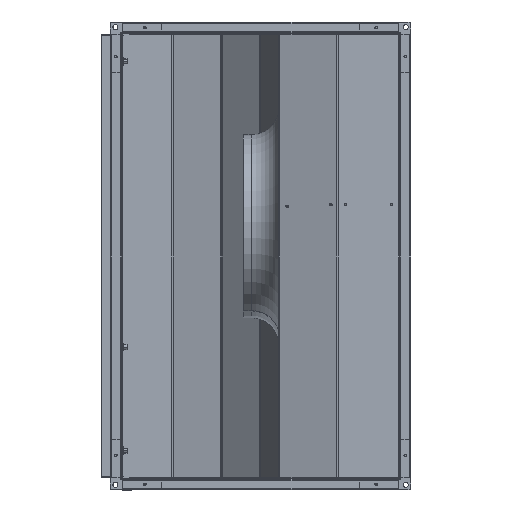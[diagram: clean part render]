
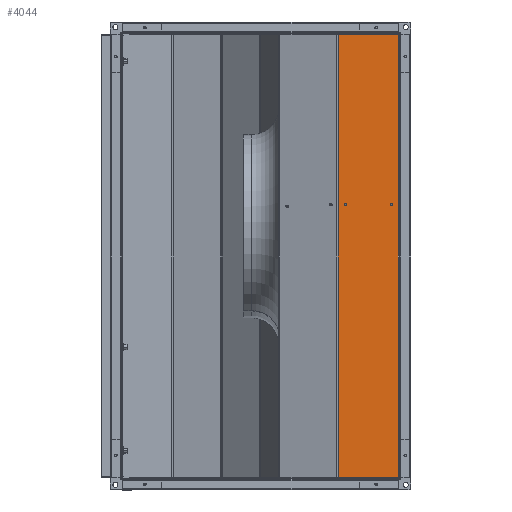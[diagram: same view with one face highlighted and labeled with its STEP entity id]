
A CAD part, left-side view. The second image highlights one B-rep face of the part: STEP entity #4044.
In plain terms, the highlighted planar face has unit normal (-1, 0, 0).
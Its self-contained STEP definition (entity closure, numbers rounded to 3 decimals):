
#38 = VERTEX_POINT ( 'NONE', #31100 ) ;
#108 = VERTEX_POINT ( 'NONE', #31296 ) ;
#681 = VERTEX_POINT ( 'NONE', #31140 ) ;
#4044 = ADVANCED_FACE ( 'NONE', ( #22674, #22677, #22673 ), #5422, .T. ) ;
#5417 = DIRECTION ( 'NONE',  ( 0., -1., 0. ) ) ;
#5422 = PLANE ( 'NONE',  #32259 ) ;
#5424 = CARTESIAN_POINT ( 'NONE',  ( -404., 1., 399. ) ) ;
#5429 = DIRECTION ( 'NONE',  ( -1., 0., 0. ) ) ;
#10189 = VERTEX_POINT ( 'NONE', #15628 ) ;
#10333 = VERTEX_POINT ( 'NONE', #15758 ) ;
#10343 = VERTEX_POINT ( 'NONE', #15753 ) ;
#11100 = DIRECTION ( 'NONE',  ( 0., 0., 1. ) ) ;
#11101 = CARTESIAN_POINT ( 'NONE',  ( -404., 3.3, -397.293 ) ) ;
#12354 = EDGE_LOOP ( 'NONE', ( #17712, #17711 ) ) ;
#15028 = EDGE_LOOP ( 'NONE', ( #17690, #17691 ) ) ;
#15228 = EDGE_LOOP ( 'NONE', ( #17692, #17693, #17694, #17695 ) ) ;
#15628 = CARTESIAN_POINT ( 'NONE',  ( -404., 111.004, -396.7 ) ) ;
#15753 = CARTESIAN_POINT ( 'NONE',  ( -404., 3.3, -396.7 ) ) ;
#15758 = CARTESIAN_POINT ( 'NONE',  ( -404., 3.3, 396.7 ) ) ;
#17690 = ORIENTED_EDGE ( 'NONE', *, *, #34722, .T. ) ;
#17691 = ORIENTED_EDGE ( 'NONE', *, *, #34739, .T. ) ;
#17692 = ORIENTED_EDGE ( 'NONE', *, *, #34713, .T. ) ;
#17693 = ORIENTED_EDGE ( 'NONE', *, *, #34916, .T. ) ;
#17694 = ORIENTED_EDGE ( 'NONE', *, *, #34714, .T. ) ;
#17695 = ORIENTED_EDGE ( 'NONE', *, *, #34709, .T. ) ;
#17711 = ORIENTED_EDGE ( 'NONE', *, *, #34743, .T. ) ;
#17712 = ORIENTED_EDGE ( 'NONE', *, *, #34712, .T. ) ;
#20630 = VERTEX_POINT ( 'NONE', #23135 ) ;
#21078 = VERTEX_POINT ( 'NONE', #23191 ) ;
#22673 = FACE_OUTER_BOUND ( 'NONE', #15228, .T. ) ;
#22674 = FACE_BOUND ( 'NONE', #12354, .T. ) ;
#22677 = FACE_BOUND ( 'NONE', #15028, .T. ) ;
#23135 = CARTESIAN_POINT ( 'NONE',  ( -404., 18.028, 92.571 ) ) ;
#23191 = CARTESIAN_POINT ( 'NONE',  ( -404., 95.828, 92.571 ) ) ;
#23656 = LINE ( 'NONE', #26803, #23658 ) ;
#23658 = VECTOR ( 'NONE', #26810, 1000. ) ;
#23659 = LINE ( 'NONE', #26823, #23665 ) ;
#23661 = CIRCLE ( 'NONE', #25649, 2.1 ) ;
#23664 = LINE ( 'NONE', #26827, #23667 ) ;
#23665 = VECTOR ( 'NONE', #26820, 1000. ) ;
#23667 = VECTOR ( 'NONE', #26828, 1000. ) ;
#23676 = CIRCLE ( 'NONE', #25650, 2.1 ) ;
#23695 = CIRCLE ( 'NONE', #25665, 2.1 ) ;
#23701 = CIRCLE ( 'NONE', #25663, 2.1 ) ;
#23941 = LINE ( 'NONE', #11101, #23943 ) ;
#23943 = VECTOR ( 'NONE', #11100, 1000. ) ;
#25649 = AXIS2_PLACEMENT_3D ( 'NONE', #26824, #26825, #26826 ) ;
#25650 = AXIS2_PLACEMENT_3D ( 'NONE', #26862, #26863, #26864 ) ;
#25663 = AXIS2_PLACEMENT_3D ( 'NONE', #26921, #26922, #26923 ) ;
#25665 = AXIS2_PLACEMENT_3D ( 'NONE', #26910, #26911, #26912 ) ;
#26803 = CARTESIAN_POINT ( 'NONE',  ( -404., 111.004, 399. ) ) ;
#26810 = DIRECTION ( 'NONE',  ( 0., 0., -1. ) ) ;
#26820 = DIRECTION ( 'NONE',  ( 0., -1., 0. ) ) ;
#26823 = CARTESIAN_POINT ( 'NONE',  ( -404., 111.004, -396.7 ) ) ;
#26824 = CARTESIAN_POINT ( 'NONE',  ( -404., 97.928, 92.571 ) ) ;
#26825 = DIRECTION ( 'NONE',  ( 1., 0., 0. ) ) ;
#26826 = DIRECTION ( 'NONE',  ( 0., 1., 0. ) ) ;
#26827 = CARTESIAN_POINT ( 'NONE',  ( -404., 2.707, 396.7 ) ) ;
#26828 = DIRECTION ( 'NONE',  ( 0., 1., 0. ) ) ;
#26862 = CARTESIAN_POINT ( 'NONE',  ( -404., 15.928, 92.571 ) ) ;
#26863 = DIRECTION ( 'NONE',  ( 1., 0., 0. ) ) ;
#26864 = DIRECTION ( 'NONE',  ( 0., 1., 0. ) ) ;
#26910 = CARTESIAN_POINT ( 'NONE',  ( -404., 15.928, 92.571 ) ) ;
#26911 = DIRECTION ( 'NONE',  ( 1., 0., 0. ) ) ;
#26912 = DIRECTION ( 'NONE',  ( 0., 1., 0. ) ) ;
#26921 = CARTESIAN_POINT ( 'NONE',  ( -404., 97.928, 92.571 ) ) ;
#26922 = DIRECTION ( 'NONE',  ( 1., 0., 0. ) ) ;
#26923 = DIRECTION ( 'NONE',  ( 0., 1., 0. ) ) ;
#31100 = CARTESIAN_POINT ( 'NONE',  ( -404., 100.028, 92.571 ) ) ;
#31140 = CARTESIAN_POINT ( 'NONE',  ( -404., 13.828, 92.571 ) ) ;
#31296 = CARTESIAN_POINT ( 'NONE',  ( -404., 111.004, 396.7 ) ) ;
#32259 = AXIS2_PLACEMENT_3D ( 'NONE', #5424, #5429, #5417 ) ;
#34709 = EDGE_CURVE ( 'NONE', #108, #10189, #23656, .T. ) ;
#34712 = EDGE_CURVE ( 'NONE', #38, #21078, #23661, .T. ) ;
#34713 = EDGE_CURVE ( 'NONE', #10189, #10343, #23659, .T. ) ;
#34714 = EDGE_CURVE ( 'NONE', #10333, #108, #23664, .T. ) ;
#34722 = EDGE_CURVE ( 'NONE', #20630, #681, #23676, .T. ) ;
#34739 = EDGE_CURVE ( 'NONE', #681, #20630, #23695, .T. ) ;
#34743 = EDGE_CURVE ( 'NONE', #21078, #38, #23701, .T. ) ;
#34916 = EDGE_CURVE ( 'NONE', #10343, #10333, #23941, .T. ) ;
